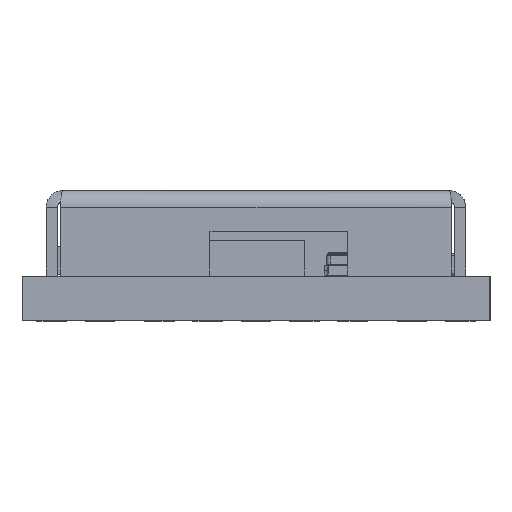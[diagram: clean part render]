
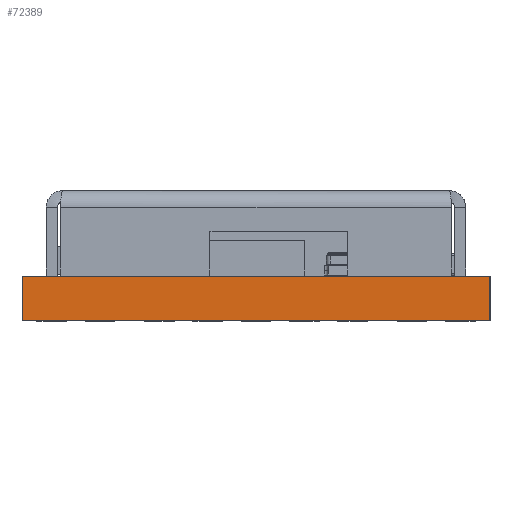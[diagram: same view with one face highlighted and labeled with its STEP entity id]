
A CAD part, left-side view. The second image highlights one B-rep face of the part: STEP entity #72389.
In plain terms, the highlighted planar face has unit normal (-1, 0, 0).
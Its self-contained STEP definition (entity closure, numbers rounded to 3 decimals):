
#2233 = PLANE ( 'NONE',  #7345 ) ;
#2452 = LINE ( 'NONE', #54583, #23554 ) ;
#2517 = LINE ( 'NONE', #61947, #82221 ) ;
#3266 = CARTESIAN_POINT ( 'NONE',  ( 0., 6.3, 0. ) ) ;
#3964 = VERTEX_POINT ( 'NONE', #13764 ) ;
#5568 = DIRECTION ( 'NONE',  ( 0., 0., 1. ) ) ;
#6544 = FACE_OUTER_BOUND ( 'NONE', #80869, .T. ) ;
#7345 = AXIS2_PLACEMENT_3D ( 'NONE', #34993, #16475, #14745 ) ;
#13045 = CARTESIAN_POINT ( 'NONE',  ( 0., 0., -0.599 ) ) ;
#13764 = CARTESIAN_POINT ( 'NONE',  ( 0., 6.3, -0.599 ) ) ;
#14164 = VECTOR ( 'NONE', #5568, 1000. ) ;
#14745 = DIRECTION ( 'NONE',  ( 0., 0., 1. ) ) ;
#16475 = DIRECTION ( 'NONE',  ( -1., 0., 0. ) ) ;
#23047 = LINE ( 'NONE', #49372, #53933 ) ;
#23554 = VECTOR ( 'NONE', #55007, 1000. ) ;
#23910 = CARTESIAN_POINT ( 'NONE',  ( 0., 0., 0. ) ) ;
#28045 = EDGE_CURVE ( 'NONE', #68907, #3964, #2517, .T. ) ;
#31959 = VERTEX_POINT ( 'NONE', #23910 ) ;
#33143 = ORIENTED_EDGE ( 'NONE', *, *, #38387, .T. ) ;
#33839 = ORIENTED_EDGE ( 'NONE', *, *, #28045, .F. ) ;
#34993 = CARTESIAN_POINT ( 'NONE',  ( 0., 0., -0.599 ) ) ;
#38387 = EDGE_CURVE ( 'NONE', #31959, #83550, #23047, .T. ) ;
#46132 = CARTESIAN_POINT ( 'NONE',  ( 0., 6.3, -0.599 ) ) ;
#49372 = CARTESIAN_POINT ( 'NONE',  ( 0., 0., 0. ) ) ;
#53933 = VECTOR ( 'NONE', #75559, 1000. ) ;
#54583 = CARTESIAN_POINT ( 'NONE',  ( 0., 0., -0.599 ) ) ;
#55007 = DIRECTION ( 'NONE',  ( 0., 0., 1. ) ) ;
#61519 = DIRECTION ( 'NONE',  ( 0., 1., 0. ) ) ;
#61947 = CARTESIAN_POINT ( 'NONE',  ( 0., 0., -0.599 ) ) ;
#62202 = ORIENTED_EDGE ( 'NONE', *, *, #71317, .F. ) ;
#64059 = EDGE_CURVE ( 'NONE', #68907, #31959, #2452, .T. ) ;
#68520 = ORIENTED_EDGE ( 'NONE', *, *, #64059, .T. ) ;
#68907 = VERTEX_POINT ( 'NONE', #13045 ) ;
#71317 = EDGE_CURVE ( 'NONE', #3964, #83550, #71954, .T. ) ;
#71954 = LINE ( 'NONE', #46132, #14164 ) ;
#72389 = ADVANCED_FACE ( 'NONE', ( #6544 ), #2233, .T. ) ;
#75559 = DIRECTION ( 'NONE',  ( 0., 1., 0. ) ) ;
#80869 = EDGE_LOOP ( 'NONE', ( #68520, #33143, #62202, #33839 ) ) ;
#82221 = VECTOR ( 'NONE', #61519, 1000. ) ;
#83550 = VERTEX_POINT ( 'NONE', #3266 ) ;
